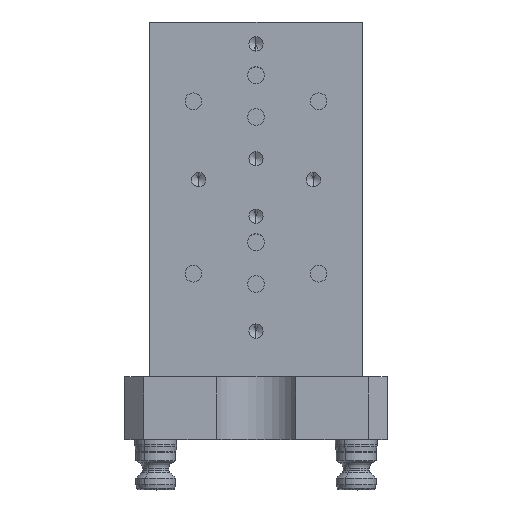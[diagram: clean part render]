
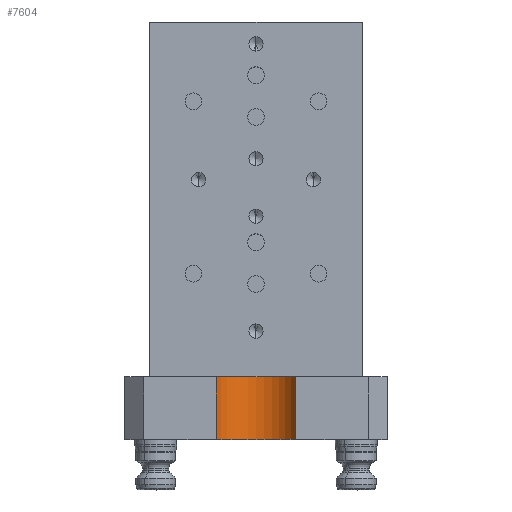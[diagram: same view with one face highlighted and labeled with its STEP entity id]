
A CAD part, top view. The second image highlights one B-rep face of the part: STEP entity #7604.
In plain terms, the highlighted cylindrical face has radius 22.098 mm (diameter 44.196 mm), a partial arc.
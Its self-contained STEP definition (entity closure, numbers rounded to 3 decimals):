
#176 = DIRECTION ( 'NONE',  ( 1., 0., 0. ) ) ;
#696 = EDGE_CURVE ( 'NONE', #3513, #4981, #2834, .T. ) ;
#1032 = ORIENTED_EDGE ( 'NONE', *, *, #4814, .F. ) ;
#1166 = AXIS2_PLACEMENT_3D ( 'NONE', #6117, #2487, #6728 ) ;
#1563 = VECTOR ( 'NONE', #5313, 1000. ) ;
#2079 = EDGE_CURVE ( 'NONE', #3745, #3513, #6106, .T. ) ;
#2462 = ORIENTED_EDGE ( 'NONE', *, *, #4756, .F. ) ;
#2487 = DIRECTION ( 'NONE',  ( 0., 0., 1. ) ) ;
#2834 = CIRCLE ( 'NONE', #1166, 22.098 ) ;
#3043 = CARTESIAN_POINT ( 'NONE',  ( -19.008, -62.865, 0. ) ) ;
#3090 = VECTOR ( 'NONE', #4862, 1000. ) ;
#3262 = EDGE_LOOP ( 'NONE', ( #7013, #1032, #2462, #6166 ) ) ;
#3513 = VERTEX_POINT ( 'NONE', #6122 ) ;
#3745 = VERTEX_POINT ( 'NONE', #6814 ) ;
#4484 = AXIS2_PLACEMENT_3D ( 'NONE', #5470, #7356, #6125 ) ;
#4756 = EDGE_CURVE ( 'NONE', #3745, #7587, #6083, .T. ) ;
#4814 = EDGE_CURVE ( 'NONE', #7587, #4981, #7815, .T. ) ;
#4862 = DIRECTION ( 'NONE',  ( 0., 0., 1. ) ) ;
#4981 = VERTEX_POINT ( 'NONE', #6489 ) ;
#5071 = CARTESIAN_POINT ( 'NONE',  ( 0., -74.135, 0. ) ) ;
#5313 = DIRECTION ( 'NONE',  ( 0., 0., 1. ) ) ;
#5470 = CARTESIAN_POINT ( 'NONE',  ( 0., -74.135, 0. ) ) ;
#5505 = CARTESIAN_POINT ( 'NONE',  ( -19.008, -62.865, 0. ) ) ;
#6083 = CIRCLE ( 'NONE', #4484, 22.098 ) ;
#6106 = LINE ( 'NONE', #6553, #1563 ) ;
#6117 = CARTESIAN_POINT ( 'NONE',  ( 0., -74.135, 30. ) ) ;
#6122 = CARTESIAN_POINT ( 'NONE',  ( 19.008, -62.865, 30. ) ) ;
#6123 = FACE_OUTER_BOUND ( 'NONE', #3262, .T. ) ;
#6125 = DIRECTION ( 'NONE',  ( 1., 0., 0. ) ) ;
#6166 = ORIENTED_EDGE ( 'NONE', *, *, #2079, .T. ) ;
#6382 = AXIS2_PLACEMENT_3D ( 'NONE', #5071, #7611, #176 ) ;
#6489 = CARTESIAN_POINT ( 'NONE',  ( -19.008, -62.865, 30. ) ) ;
#6553 = CARTESIAN_POINT ( 'NONE',  ( 19.008, -62.865, 0. ) ) ;
#6728 = DIRECTION ( 'NONE',  ( 1., 0., 0. ) ) ;
#6814 = CARTESIAN_POINT ( 'NONE',  ( 19.008, -62.865, 0. ) ) ;
#7013 = ORIENTED_EDGE ( 'NONE', *, *, #696, .T. ) ;
#7356 = DIRECTION ( 'NONE',  ( 0., 0., 1. ) ) ;
#7587 = VERTEX_POINT ( 'NONE', #5505 ) ;
#7604 = ADVANCED_FACE ( 'NONE', ( #6123 ), #7977, .F. ) ;
#7611 = DIRECTION ( 'NONE',  ( 0., 0., 1. ) ) ;
#7815 = LINE ( 'NONE', #3043, #3090 ) ;
#7977 = CYLINDRICAL_SURFACE ( 'NONE', #6382, 22.098 ) ;
